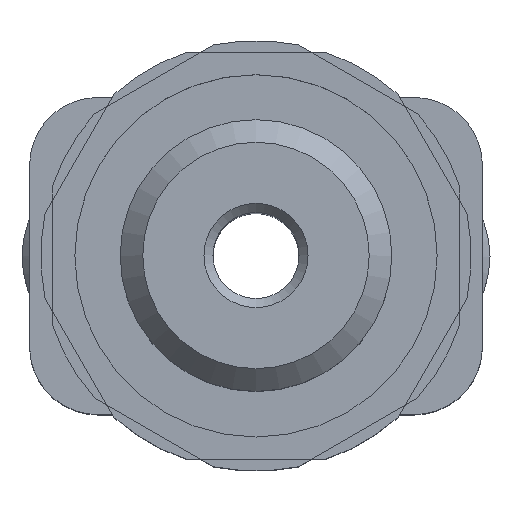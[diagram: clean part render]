
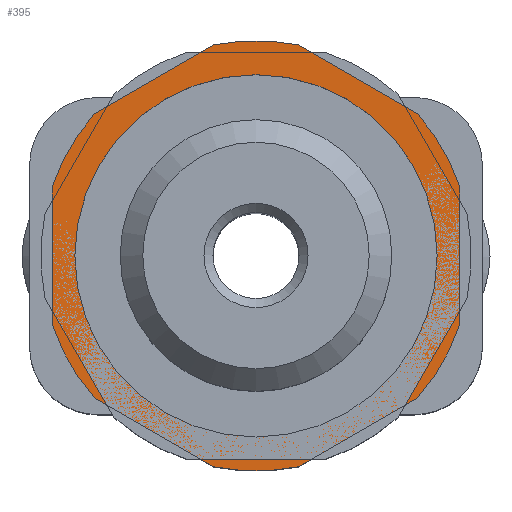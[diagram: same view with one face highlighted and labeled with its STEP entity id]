
A CAD part, top view. The second image highlights one B-rep face of the part: STEP entity #395.
In plain terms, the highlighted planar face has unit normal (0, 0, 1).
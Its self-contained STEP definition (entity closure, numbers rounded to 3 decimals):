
#395 = ADVANCED_FACE( '', ( #719, #720 ), #721, .T. );
#719 = FACE_BOUND( '', #897, .T. );
#720 = FACE_OUTER_BOUND( '', #898, .T. );
#721 = PLANE( '', #899 );
#897 = EDGE_LOOP( '', ( #1154 ) );
#898 = EDGE_LOOP( '', ( #1155, #1156, #1157, #1158, #1159, #1160, #1161, #1162, #1163, #1164, #1165, #1166 ) );
#899 = AXIS2_PLACEMENT_3D( '', #1167, #1168, #1169 );
#1154 = ORIENTED_EDGE( '', *, *, #1580, .T. );
#1155 = ORIENTED_EDGE( '', *, *, #1575, .F. );
#1156 = ORIENTED_EDGE( '', *, *, #1572, .T. );
#1157 = ORIENTED_EDGE( '', *, *, #1581, .F. );
#1158 = ORIENTED_EDGE( '', *, *, #1582, .T. );
#1159 = ORIENTED_EDGE( '', *, *, #1583, .F. );
#1160 = ORIENTED_EDGE( '', *, *, #1584, .T. );
#1161 = ORIENTED_EDGE( '', *, *, #1585, .F. );
#1162 = ORIENTED_EDGE( '', *, *, #1586, .T. );
#1163 = ORIENTED_EDGE( '', *, *, #1587, .F. );
#1164 = ORIENTED_EDGE( '', *, *, #1588, .T. );
#1165 = ORIENTED_EDGE( '', *, *, #1589, .F. );
#1166 = ORIENTED_EDGE( '', *, *, #1590, .T. );
#1167 = CARTESIAN_POINT( '', ( -4.75, 0., 2.5 ) );
#1168 = DIRECTION( '', ( 0., 0., 1. ) );
#1169 = DIRECTION( '', ( 1., 0., 0. ) );
#1572 = EDGE_CURVE( '', #1785, #1786, #1787, .T. );
#1575 = EDGE_CURVE( '', #1785, #1790, #1791, .T. );
#1580 = EDGE_CURVE( '', #1798, #1798, #1799, .T. );
#1581 = EDGE_CURVE( '', #1800, #1786, #1801, .T. );
#1582 = EDGE_CURVE( '', #1800, #1802, #1803, .T. );
#1583 = EDGE_CURVE( '', #1804, #1802, #1805, .T. );
#1584 = EDGE_CURVE( '', #1804, #1806, #1807, .T. );
#1585 = EDGE_CURVE( '', #1808, #1806, #1809, .T. );
#1586 = EDGE_CURVE( '', #1808, #1810, #1811, .T. );
#1587 = EDGE_CURVE( '', #1812, #1810, #1813, .T. );
#1588 = EDGE_CURVE( '', #1812, #1814, #1815, .T. );
#1589 = EDGE_CURVE( '', #1816, #1814, #1817, .T. );
#1590 = EDGE_CURVE( '', #1816, #1790, #1818, .T. );
#1785 = VERTEX_POINT( '', #1884 );
#1786 = VERTEX_POINT( '', #1885 );
#1787 = LINE( '', #1886, #1887 );
#1790 = VERTEX_POINT( '', #1892 );
#1791 = CIRCLE( '', #1893, 4.75 );
#1798 = VERTEX_POINT( '', #1903 );
#1799 = CIRCLE( '', #1904, 4. );
#1800 = VERTEX_POINT( '', #1905 );
#1801 = CIRCLE( '', #1906, 4.75 );
#1802 = VERTEX_POINT( '', #1907 );
#1803 = LINE( '', #1908, #1909 );
#1804 = VERTEX_POINT( '', #1910 );
#1805 = CIRCLE( '', #1911, 4.75 );
#1806 = VERTEX_POINT( '', #1912 );
#1807 = LINE( '', #1913, #1914 );
#1808 = VERTEX_POINT( '', #1915 );
#1809 = CIRCLE( '', #1916, 4.75 );
#1810 = VERTEX_POINT( '', #1917 );
#1811 = LINE( '', #1918, #1919 );
#1812 = VERTEX_POINT( '', #1920 );
#1813 = CIRCLE( '', #1921, 4.75 );
#1814 = VERTEX_POINT( '', #1922 );
#1815 = LINE( '', #1923, #1924 );
#1816 = VERTEX_POINT( '', #1925 );
#1817 = CIRCLE( '', #1926, 4.75 );
#1818 = LINE( '', #1927, #1928 );
#1884 = CARTESIAN_POINT( '', ( 1.521, 4.5, 2.5 ) );
#1885 = CARTESIAN_POINT( '', ( -1.521, 4.5, 2.5 ) );
#1886 = CARTESIAN_POINT( '', ( 1.521, 4.5, 2.5 ) );
#1887 = VECTOR( '', #1999, 1000. );
#1892 = CARTESIAN_POINT( '', ( 3.137, 3.567, 2.5 ) );
#1893 = AXIS2_PLACEMENT_3D( '', #2002, #2003, #2004 );
#1903 = CARTESIAN_POINT( '', ( -4., 0., 2.5 ) );
#1904 = AXIS2_PLACEMENT_3D( '', #2011, #2012, #2013 );
#1905 = CARTESIAN_POINT( '', ( -3.137, 3.567, 2.5 ) );
#1906 = AXIS2_PLACEMENT_3D( '', #2014, #2015, #2016 );
#1907 = CARTESIAN_POINT( '', ( -4.657, 0.933, 2.5 ) );
#1908 = CARTESIAN_POINT( '', ( -3.137, 3.567, 2.5 ) );
#1909 = VECTOR( '', #2017, 1000. );
#1910 = CARTESIAN_POINT( '', ( -4.657, -0.933, 2.5 ) );
#1911 = AXIS2_PLACEMENT_3D( '', #2018, #2019, #2020 );
#1912 = CARTESIAN_POINT( '', ( -3.137, -3.567, 2.5 ) );
#1913 = CARTESIAN_POINT( '', ( -4.657, -0.933, 2.5 ) );
#1914 = VECTOR( '', #2021, 1000. );
#1915 = CARTESIAN_POINT( '', ( -1.521, -4.5, 2.5 ) );
#1916 = AXIS2_PLACEMENT_3D( '', #2022, #2023, #2024 );
#1917 = CARTESIAN_POINT( '', ( 1.521, -4.5, 2.5 ) );
#1918 = CARTESIAN_POINT( '', ( -1.521, -4.5, 2.5 ) );
#1919 = VECTOR( '', #2025, 1000. );
#1920 = CARTESIAN_POINT( '', ( 3.137, -3.567, 2.5 ) );
#1921 = AXIS2_PLACEMENT_3D( '', #2026, #2027, #2028 );
#1922 = CARTESIAN_POINT( '', ( 4.657, -0.933, 2.5 ) );
#1923 = CARTESIAN_POINT( '', ( 3.137, -3.567, 2.5 ) );
#1924 = VECTOR( '', #2029, 1000. );
#1925 = CARTESIAN_POINT( '', ( 4.657, 0.933, 2.5 ) );
#1926 = AXIS2_PLACEMENT_3D( '', #2030, #2031, #2032 );
#1927 = CARTESIAN_POINT( '', ( 4.657, 0.933, 2.5 ) );
#1928 = VECTOR( '', #2033, 1000. );
#1999 = DIRECTION( '', ( -1., 0., 0. ) );
#2002 = CARTESIAN_POINT( '', ( 0., 0., 2.5 ) );
#2003 = DIRECTION( '', ( 0., 0., -1. ) );
#2004 = DIRECTION( '', ( -1., 0., 0. ) );
#2011 = CARTESIAN_POINT( '', ( 0., 0., 2.5 ) );
#2012 = DIRECTION( '', ( 0., 0., -1. ) );
#2013 = DIRECTION( '', ( -1., 0., 0. ) );
#2014 = CARTESIAN_POINT( '', ( 0., 0., 2.5 ) );
#2015 = DIRECTION( '', ( 0., 0., -1. ) );
#2016 = DIRECTION( '', ( -1., 0., 0. ) );
#2017 = DIRECTION( '', ( -0.5, -0.866, 0. ) );
#2018 = CARTESIAN_POINT( '', ( 0., 0., 2.5 ) );
#2019 = DIRECTION( '', ( 0., 0., -1. ) );
#2020 = DIRECTION( '', ( -1., 0., 0. ) );
#2021 = DIRECTION( '', ( 0.5, -0.866, 0. ) );
#2022 = CARTESIAN_POINT( '', ( 0., 0., 2.5 ) );
#2023 = DIRECTION( '', ( 0., 0., -1. ) );
#2024 = DIRECTION( '', ( -1., 0., 0. ) );
#2025 = DIRECTION( '', ( 1., 0., 0. ) );
#2026 = CARTESIAN_POINT( '', ( 0., 0., 2.5 ) );
#2027 = DIRECTION( '', ( 0., 0., -1. ) );
#2028 = DIRECTION( '', ( -1., 0., 0. ) );
#2029 = DIRECTION( '', ( 0.5, 0.866, 0. ) );
#2030 = CARTESIAN_POINT( '', ( 0., 0., 2.5 ) );
#2031 = DIRECTION( '', ( 0., 0., -1. ) );
#2032 = DIRECTION( '', ( -1., 0., 0. ) );
#2033 = DIRECTION( '', ( -0.5, 0.866, 0. ) );
